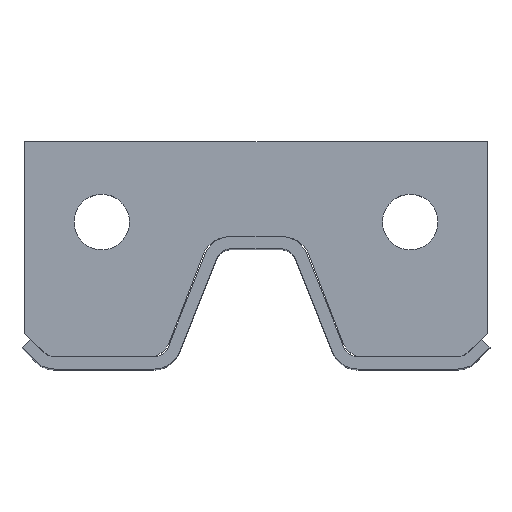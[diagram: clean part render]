
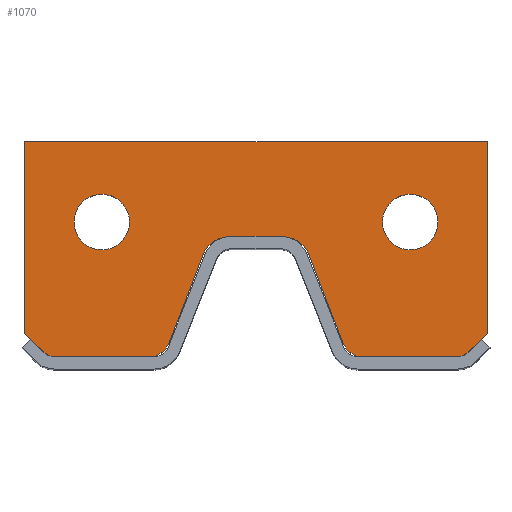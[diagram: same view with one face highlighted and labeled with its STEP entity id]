
A CAD part, top view. The second image highlights one B-rep face of the part: STEP entity #1070.
In plain terms, the highlighted planar face has unit normal (0, 0, 1).
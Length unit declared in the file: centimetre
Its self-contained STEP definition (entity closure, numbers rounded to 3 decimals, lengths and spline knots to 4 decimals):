
#40=FACE_BOUND('',#107,.T.);
#41=FACE_BOUND('',#108,.T.);
#52=FACE_OUTER_BOUND('',#106,.T.);
#106=EDGE_LOOP('',(#716,#717,#718,#719,#720,#721,#722,#723,#724,#725,#726,
#727,#728,#729,#730,#731,#732,#733));
#107=EDGE_LOOP('',(#734));
#108=EDGE_LOOP('',(#735));
#172=CIRCLE('',#1127,0.8);
#173=CIRCLE('',#1128,0.8);
#174=CIRCLE('',#1129,0.8);
#175=CIRCLE('',#1130,0.8);
#176=CIRCLE('',#1131,0.8);
#177=CIRCLE('',#1132,0.8);
#178=CIRCLE('',#1133,0.9);
#179=CIRCLE('',#1134,0.9);
#220=LINE('',#1552,#334);
#221=LINE('',#1556,#335);
#222=LINE('',#1560,#336);
#223=LINE('',#1564,#337);
#224=LINE('',#1566,#338);
#225=LINE('',#1568,#339);
#226=LINE('',#1570,#340);
#227=LINE('',#1572,#341);
#228=LINE('',#1576,#342);
#229=LINE('',#1580,#343);
#230=LINE('',#1584,#344);
#231=LINE('',#1585,#345);
#334=VECTOR('',#1232,0.1);
#335=VECTOR('',#1235,0.1);
#336=VECTOR('',#1238,0.1);
#337=VECTOR('',#1241,0.1);
#338=VECTOR('',#1242,0.1);
#339=VECTOR('',#1243,0.1);
#340=VECTOR('',#1244,0.1);
#341=VECTOR('',#1245,0.1);
#342=VECTOR('',#1248,0.1);
#343=VECTOR('',#1251,0.1);
#344=VECTOR('',#1254,0.1);
#345=VECTOR('',#1255,0.1);
#448=VERTEX_POINT('',#1550);
#449=VERTEX_POINT('',#1551);
#450=VERTEX_POINT('',#1553);
#451=VERTEX_POINT('',#1555);
#452=VERTEX_POINT('',#1557);
#453=VERTEX_POINT('',#1559);
#454=VERTEX_POINT('',#1561);
#455=VERTEX_POINT('',#1563);
#456=VERTEX_POINT('',#1565);
#457=VERTEX_POINT('',#1567);
#458=VERTEX_POINT('',#1569);
#459=VERTEX_POINT('',#1571);
#460=VERTEX_POINT('',#1573);
#461=VERTEX_POINT('',#1575);
#462=VERTEX_POINT('',#1577);
#463=VERTEX_POINT('',#1579);
#464=VERTEX_POINT('',#1581);
#465=VERTEX_POINT('',#1583);
#466=VERTEX_POINT('',#1586);
#467=VERTEX_POINT('',#1588);
#554=EDGE_CURVE('',#448,#449,#220,.T.);
#555=EDGE_CURVE('',#449,#450,#172,.T.);
#556=EDGE_CURVE('',#450,#451,#221,.T.);
#557=EDGE_CURVE('',#451,#452,#173,.T.);
#558=EDGE_CURVE('',#453,#452,#222,.T.);
#559=EDGE_CURVE('',#453,#454,#174,.T.);
#560=EDGE_CURVE('',#454,#455,#223,.T.);
#561=EDGE_CURVE('',#455,#456,#224,.T.);
#562=EDGE_CURVE('',#456,#457,#225,.T.);
#563=EDGE_CURVE('',#457,#458,#226,.T.);
#564=EDGE_CURVE('',#458,#459,#227,.T.);
#565=EDGE_CURVE('',#459,#460,#175,.T.);
#566=EDGE_CURVE('',#461,#460,#228,.T.);
#567=EDGE_CURVE('',#461,#462,#176,.T.);
#568=EDGE_CURVE('',#462,#463,#229,.T.);
#569=EDGE_CURVE('',#463,#464,#177,.T.);
#570=EDGE_CURVE('',#464,#465,#230,.T.);
#571=EDGE_CURVE('',#448,#465,#231,.T.);
#572=EDGE_CURVE('',#466,#466,#178,.T.);
#573=EDGE_CURVE('',#467,#467,#179,.T.);
#716=ORIENTED_EDGE('',*,*,#554,.T.);
#717=ORIENTED_EDGE('',*,*,#555,.T.);
#718=ORIENTED_EDGE('',*,*,#556,.T.);
#719=ORIENTED_EDGE('',*,*,#557,.T.);
#720=ORIENTED_EDGE('',*,*,#558,.F.);
#721=ORIENTED_EDGE('',*,*,#559,.T.);
#722=ORIENTED_EDGE('',*,*,#560,.T.);
#723=ORIENTED_EDGE('',*,*,#561,.T.);
#724=ORIENTED_EDGE('',*,*,#562,.T.);
#725=ORIENTED_EDGE('',*,*,#563,.T.);
#726=ORIENTED_EDGE('',*,*,#564,.T.);
#727=ORIENTED_EDGE('',*,*,#565,.T.);
#728=ORIENTED_EDGE('',*,*,#566,.F.);
#729=ORIENTED_EDGE('',*,*,#567,.T.);
#730=ORIENTED_EDGE('',*,*,#568,.T.);
#731=ORIENTED_EDGE('',*,*,#569,.T.);
#732=ORIENTED_EDGE('',*,*,#570,.T.);
#733=ORIENTED_EDGE('',*,*,#571,.F.);
#734=ORIENTED_EDGE('',*,*,#572,.T.);
#735=ORIENTED_EDGE('',*,*,#573,.T.);
#1040=PLANE('',#1126);
#1070=ADVANCED_FACE('',(#52,#40,#41),#1040,.T.);
#1126=AXIS2_PLACEMENT_3D('',#1549,#1230,#1231);
#1127=AXIS2_PLACEMENT_3D('',#1554,#1233,#1234);
#1128=AXIS2_PLACEMENT_3D('',#1558,#1236,#1237);
#1129=AXIS2_PLACEMENT_3D('',#1562,#1239,#1240);
#1130=AXIS2_PLACEMENT_3D('',#1574,#1246,#1247);
#1131=AXIS2_PLACEMENT_3D('',#1578,#1249,#1250);
#1132=AXIS2_PLACEMENT_3D('',#1582,#1252,#1253);
#1133=AXIS2_PLACEMENT_3D('',#1587,#1256,#1257);
#1134=AXIS2_PLACEMENT_3D('',#1589,#1258,#1259);
#1230=DIRECTION('center_axis',(0.,0.,1.));
#1231=DIRECTION('ref_axis',(1.,0.,0.));
#1232=DIRECTION('',(1.,0.,0.));
#1233=DIRECTION('center_axis',(0.,0.,-1.));
#1234=DIRECTION('ref_axis',(0.566,0.824,0.));
#1235=DIRECTION('',(0.359,-0.933,0.));
#1236=DIRECTION('center_axis',(0.,0.,1.));
#1237=DIRECTION('ref_axis',(-0.566,-0.824,0.));
#1238=DIRECTION('',(-1.,0.,0.));
#1239=DIRECTION('center_axis',(0.,0.,1.));
#1240=DIRECTION('ref_axis',(0.383,-0.924,0.));
#1241=DIRECTION('',(0.707,0.707,0.));
#1242=DIRECTION('',(0.,1.,0.));
#1243=DIRECTION('',(-1.,0.,0.));
#1244=DIRECTION('',(0.,-1.,0.));
#1245=DIRECTION('',(0.707,-0.707,0.));
#1246=DIRECTION('center_axis',(0.,0.,1.));
#1247=DIRECTION('ref_axis',(-0.383,-0.924,0.));
#1248=DIRECTION('',(-1.,0.,0.));
#1249=DIRECTION('center_axis',(0.,0.,1.));
#1250=DIRECTION('ref_axis',(0.566,-0.824,0.));
#1251=DIRECTION('',(0.359,0.933,0.));
#1252=DIRECTION('center_axis',(0.,0.,-1.));
#1253=DIRECTION('ref_axis',(-0.566,0.824,0.));
#1254=DIRECTION('',(1.,0.,0.));
#1255=DIRECTION('',(-1.,0.,0.));
#1256=DIRECTION('center_axis',(0.,0.,-1.));
#1257=DIRECTION('ref_axis',(1.,0.,0.));
#1258=DIRECTION('center_axis',(0.,0.,-1.));
#1259=DIRECTION('ref_axis',(1.,0.,0.));
#1549=CARTESIAN_POINT('Origin',(-22.4958,220.4396,1.));
#1550=CARTESIAN_POINT('',(-25.1851,219.9396,1.));
#1551=CARTESIAN_POINT('',(-25.0452,219.9396,1.));
#1552=CARTESIAN_POINT('',(-26.9463,219.9396,1.));
#1553=CARTESIAN_POINT('',(-24.2985,219.4268,1.));
#1554=CARTESIAN_POINT('Origin',(-25.0452,219.1396,1.));
#1555=CARTESIAN_POINT('',(-23.193,216.5524,1.));
#1556=CARTESIAN_POINT('',(-24.2985,219.4268,1.));
#1557=CARTESIAN_POINT('',(-22.4463,216.0396,1.));
#1558=CARTESIAN_POINT('Origin',(-22.4463,216.8396,1.));
#1559=CARTESIAN_POINT('',(-19.6271,216.0396,1.));
#1560=CARTESIAN_POINT('',(-22.5904,216.0396,1.));
#1561=CARTESIAN_POINT('',(-19.0614,216.2739,1.));
#1562=CARTESIAN_POINT('Origin',(-19.6271,216.8396,1.));
#1563=CARTESIAN_POINT('',(-18.4958,216.8396,1.));
#1564=CARTESIAN_POINT('',(-19.0614,216.2739,1.));
#1565=CARTESIAN_POINT('',(-18.4958,223.0396,1.));
#1566=CARTESIAN_POINT('',(-18.4958,216.8396,1.));
#1567=CARTESIAN_POINT('',(-33.4958,223.0396,1.));
#1568=CARTESIAN_POINT('',(-18.4958,223.0396,1.));
#1569=CARTESIAN_POINT('',(-33.4958,216.8396,1.));
#1570=CARTESIAN_POINT('',(-33.4958,223.0396,1.));
#1571=CARTESIAN_POINT('',(-32.9301,216.2739,1.));
#1572=CARTESIAN_POINT('',(-33.4958,216.8396,1.));
#1573=CARTESIAN_POINT('',(-32.3644,216.0396,1.));
#1574=CARTESIAN_POINT('Origin',(-32.3644,216.8396,1.));
#1575=CARTESIAN_POINT('',(-29.5452,216.0396,1.));
#1576=CARTESIAN_POINT('',(-27.5084,216.0396,1.));
#1577=CARTESIAN_POINT('',(-28.7985,216.5524,1.));
#1578=CARTESIAN_POINT('Origin',(-29.5452,216.8396,1.));
#1579=CARTESIAN_POINT('',(-27.693,219.4268,1.));
#1580=CARTESIAN_POINT('',(-28.7985,216.5524,1.));
#1581=CARTESIAN_POINT('',(-26.9463,219.9396,1.));
#1582=CARTESIAN_POINT('Origin',(-26.9463,219.1396,1.));
#1583=CARTESIAN_POINT('',(-26.8064,219.9396,1.));
#1584=CARTESIAN_POINT('',(-26.9463,219.9396,1.));
#1585=CARTESIAN_POINT('',(-24.6511,219.9396,1.));
#1586=CARTESIAN_POINT('',(-31.8958,220.4396,1.));
#1587=CARTESIAN_POINT('Origin',(-30.9958,220.4396,1.));
#1588=CARTESIAN_POINT('',(-21.8958,220.4396,1.));
#1589=CARTESIAN_POINT('Origin',(-20.9958,220.4396,1.));
